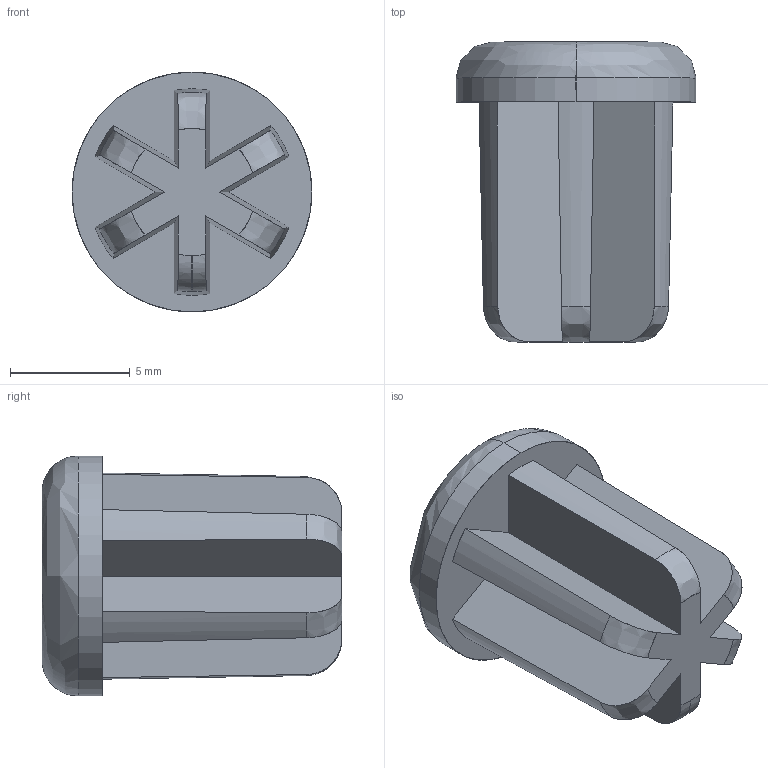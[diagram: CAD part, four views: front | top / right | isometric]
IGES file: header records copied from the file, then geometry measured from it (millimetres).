
Start section: SolidWorks IGES file using analytic representation for surfaces
Global section: file name: R:\DESIGN STORE\PRODUCTS\INDOOR AIRING\C0249 Bed Bath & Beyond X-Wing\stage 1\solidworks\C2\C0249 Iges 091013\C0249_202_C2_arm cap_A.IGS; native system: SolidWorks 2013; preprocessor: SolidWorks 2013; author: howardm; date: 131009.161702; units: millimetre
Bounding box: 10 x 12.5 x 10 mm (x, y, z)
Surface area: 638.2 mm2 (no closed solid volume)
Topology: 0 solids, 0 shells, 33 faces, 364 edges, 364 vertices
Faces by surface type: bspline 24, revolution 9
